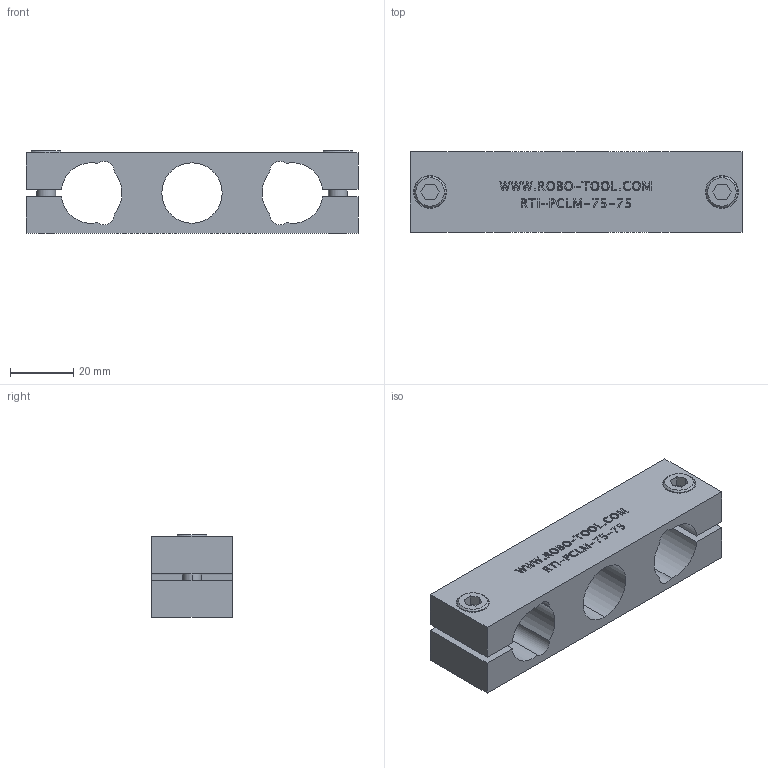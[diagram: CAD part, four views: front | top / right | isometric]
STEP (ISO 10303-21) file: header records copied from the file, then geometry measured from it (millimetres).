
FILE_DESCRIPTION (( 'STEP AP214' ), '1' );
FILE_NAME ('RTI-PCLM-75-75.STEP', '2013-10-22T14:31:02', ( 'user' ), ( '' ), 'SwSTEP 2.0', 'SolidWorks 2009', '' );
FILE_SCHEMA (( 'AUTOMOTIVE_DESIGN' ));
Length unit declared in the file: inch
Products named in the file (4): RTI-PCLM-75-75; M6 WASHER; M6 S.H.C.S._M6x20mm
Assembly tree (5 placements, depth 2):
  RTI-PCLM-75-75
    M6 WASHER  x2
    RTI-PCLM-75-75
    M6 S.H.C.S._M6x20mm  x2
Bounding box: 104.78 x 25.4 x 26.05 mm (x, y, z)
Volume: 43974 mm3; surface area: 18288.3 mm2
Topology: 5 solids, 5 shells, 415 faces, 1066 edges, 708 vertices
Faces by surface type: plane 267, bspline 96, cylinder 44, cone 8
Entity records: 21728 total; most frequent: CARTESIAN_POINT 8395, ORIENTED_EDGE 2032, DIRECTION 1506, EDGE_CURVE 1016, VECTOR 748, LINE 748, VERTEX_POINT 676, EDGE_LOOP 448
